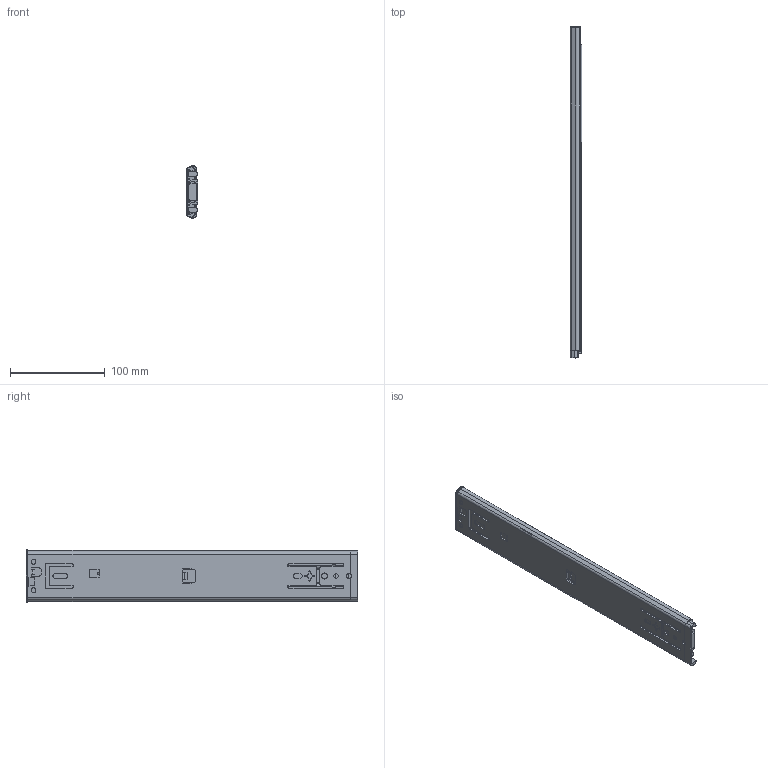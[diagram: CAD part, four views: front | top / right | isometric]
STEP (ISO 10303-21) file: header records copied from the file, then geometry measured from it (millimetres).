
FILE_DESCRIPTION( ( 'Unknown' ), '1' );
FILE_NAME( 'C:/Users/rd30/Desktop/85A01-350-Close.stp', 'Unknown', ( 'Unknown' ), ( 'Unknown' ), 'PSStep 14.0', 'Unknown', ' ' );
FILE_SCHEMA( ( 'AUTOMOTIVE_DESIGN { 1 0 10303 214 1 1 1 1 }' ) );
Length unit declared in the file: millimetre
Products named in the file (8): P10-366-3-1; P10-367-130429; 本體(卡式)20130423-\X2\4FEE6A21571\X0\; Assem1; 85A01P11-02-350; 85A01P21-03-350; 85A01P30-04-B; 85A01P30-04-350
Assembly tree (7 placements, depth 3):
  Assem1
    85A01P11-02-350
    85A01P21-03-350
    85A01P30-04-B
    85A01P30-04-350
    P10-366-3-1
      P10-367-130429
      本體(卡式)20130423-\X2\4FEE6A21571\X0\
Bounding box: 12.6 x 350 x 55.37 mm (x, y, z)
Volume: 136320.4 mm3; surface area: 111738.5 mm2
Topology: 6 solids, 6 shells, 529 faces, 1496 edges, 977 vertices
Faces by surface type: plane 264, cylinder 221, torus 24, cone 16, bspline 2, sphere 2
Full cylindrical faces by diameter (mm): 1.4 x1, 3 x1, 3.2 x1, 4.6 x1, 5 x4, 5.1 x1, 5.5 x1, 6.25 x1, 6.4 x1
Entity records: 21862 total; most frequent: CARTESIAN_POINT 3284, DIRECTION 2984, ORIENTED_EDGE 2938, EDGE_CURVE 1469, AXIS2_PLACEMENT_3D 1031, VERTEX_POINT 967, LINE 922, VECTOR 922
